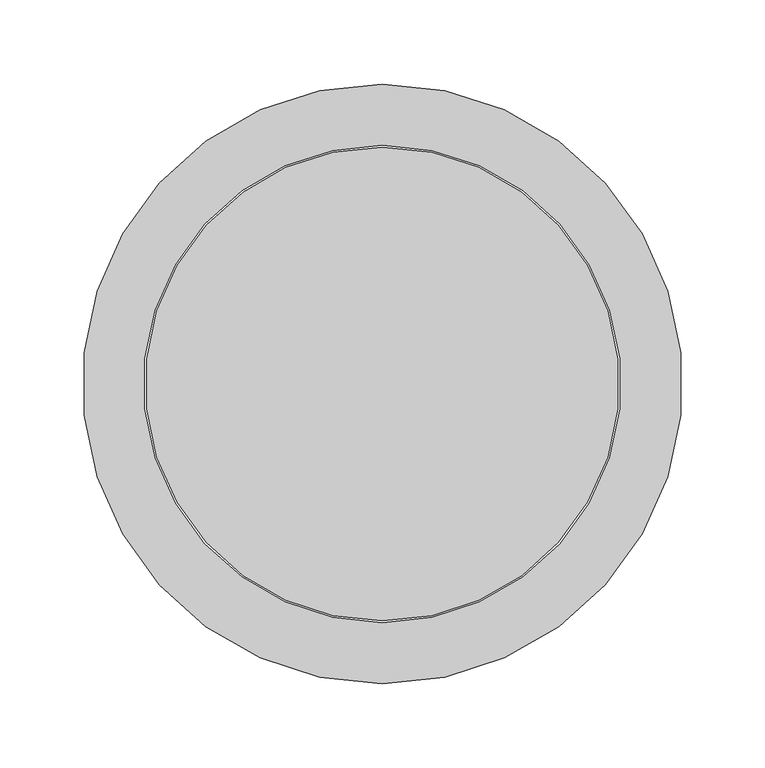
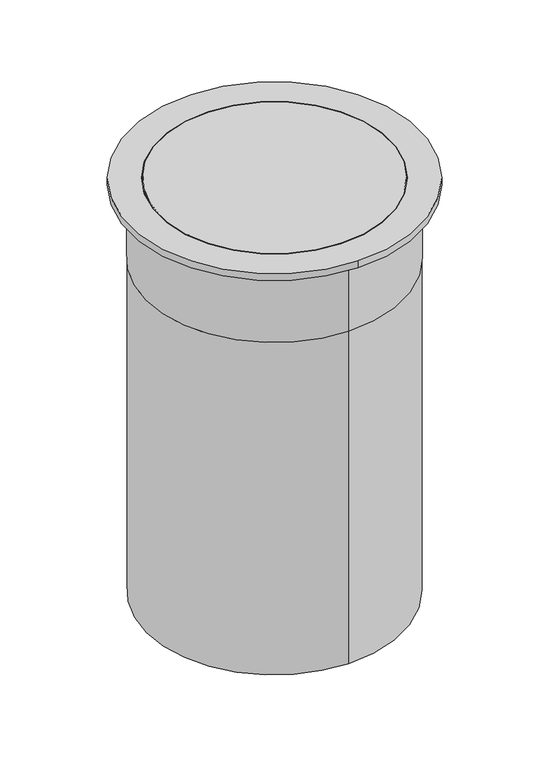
"""IFC4 building model written with IfcOpenShell, lengths in millimetres: valve geometry, Pipelife - Studnia PRO - Teleskop 315 lita : 40.0t/315/400 D400 SN4 lita."""

from ifc_helpers import new_model, si_unit, point, frame, origin, origin_with_axes, origin_2d, place, context, project, spatial, polyline, circle_curve, trimmed, segment, composite_curve, outline, extrude, source, transform, mapped, element, save
from ifc_brep_helpers import plane_surface, cylinder_surface, revolved_surface, advanced_brep


def valve_7e2185a8(model_context):
    return source(origin(), model_context, "Body", "SolidModel", [
        extrude(outline(composite_curve([segment(trimmed(circle_curve(origin_2d(), 141.0), [point((0.0, 141.0))], [point((0.0, -141.0))], False, "CARTESIAN"), True, "CONTINUOUS"), segment(trimmed(circle_curve(origin_2d(), 141.0), [point((0.0, -141.0))], [point((0.0, 141.0))], False, "CARTESIAN"), True, "CONTINUOUS")], self_intersect=False)), frame((0.0, 0.0, 524.0), z_axis=(0.0, 0.0, 1.0), x_axis=(1.0, 0.0, 0.0)), (0.0, 0.0, 1.0), 13.0),
        advanced_brep(
        [(0.0, 158.0, 433.0), (0.0, -158.0, 433.0), (0.0, 150.0, 433.0), (0.0, -150.0, 433.0), (0.0, -158.0, 528.0), (0.0, 158.0, 528.0), (0.0, 150.0, 524.0), (0.0, -150.0, 524.0), (0.0, -142.0, 528.0), (0.0, 142.0, 528.0), (0.0, 142.0, 524.0), (0.0, -142.0, 524.0)],
        [
            (0, 1, circle_curve(frame((0.0, 0.0, 433.0), z_axis=(0.0, 0.0, -1.0), x_axis=(0.0, -1.0, 0.0)), 158.0)),
            (1, 0, circle_curve(frame((0.0, 0.0, 433.0), z_axis=(0.0, 0.0, -1.0), x_axis=(0.0, -1.0, 0.0)), 158.0)),
            (2, 3, circle_curve(frame((0.0, 0.0, 433.0), z_axis=(0.0, 0.0, 1.0), x_axis=(0.0, -1.0, 0.0)), 150.0)),
            (3, 2, circle_curve(frame((0.0, 0.0, 433.0), z_axis=(0.0, 0.0, 1.0), x_axis=(0.0, -1.0, 0.0)), 150.0)),
            (4, 5, circle_curve(frame((0.0, 0.0, 528.0), z_axis=(0.0, 0.0, -1.0), x_axis=(0.0, -1.0, 0.0)), 158.0)),
            (5, 0),
            (1, 4),
            (5, 4, circle_curve(frame((0.0, 0.0, 528.0), z_axis=(0.0, 0.0, -1.0), x_axis=(0.0, -1.0, 0.0)), 158.0)),
            (6, 7, circle_curve(frame((0.0, 0.0, 524.0), z_axis=(0.0, 0.0, 1.0), x_axis=(0.0, -1.0, 0.0)), 150.0)),
            (7, 3),
            (2, 6),
            (7, 6, circle_curve(frame((0.0, 0.0, 524.0), z_axis=(0.0, 0.0, 1.0), x_axis=(0.0, -1.0, 0.0)), 150.0)),
            (8, 9, circle_curve(frame((0.0, 0.0, 528.0), z_axis=(0.0, 0.0, -1.0), x_axis=(0.0, -1.0, 0.0)), 142.0)),
            (9, 8, circle_curve(frame((0.0, 0.0, 528.0), z_axis=(0.0, 0.0, -1.0), x_axis=(0.0, -1.0, 0.0)), 142.0)),
            (10, 11, circle_curve(frame((0.0, 0.0, 524.0), z_axis=(0.0, 0.0, 1.0), x_axis=(0.0, -1.0, 0.0)), 142.0)),
            (11, 10, circle_curve(frame((0.0, 0.0, 524.0), z_axis=(0.0, 0.0, 1.0), x_axis=(0.0, -1.0, 0.0)), 142.0)),
            (10, 9),
            (8, 11),
        ],
        [
            plane_surface(frame((0.0, 0.0, 433.0), z_axis=(0.0, 0.0, -1.0), x_axis=(0.0, -1.0, 0.0))),
            cylinder_surface(frame((0.0, 0.0, 528.0), z_axis=(0.0, 0.0, 1.0), x_axis=(0.0, -1.0, 0.0)), 158.0),
            revolved_surface(polyline([(0.0, -150.0, 524.0), (0.0, -150.0, 433.0)]), (0.0, 0.0, 524.0), (0.0, 0.0, 1.0)),
            plane_surface(frame((0.0, 0.0, 528.0), z_axis=(0.0, 0.0, 1.0), x_axis=(0.0, -1.0, 0.0))),
            plane_surface(frame((0.0, 0.0, 524.0), z_axis=(0.0, 0.0, -1.0), x_axis=(0.0, -1.0, 0.0))),
            revolved_surface(polyline([(0.0, -142.0, 528.0), (0.0, -142.0, 524.0)]), (0.0, 0.0, 537.0), (0.0, 0.0, 1.0)),
        ],
        [
            (0, [[1, 2], [3, 4]]),
            (1, [[5, 6, -2, 7]]),
            (1, [[8, -7, -1, -6]]),
            (2, [[9, 10, -3, 11]]),
            (2, [[12, -11, -4, -10]]),
            (3, [[-5, -8], [13, 14]]),
            (4, [[-12, -9], [15, 16]]),
            (5, [[17, -13, 18, -15]]),
            (5, [[-17, -16, -18, -14]]),
        ],
    ),
        extrude(outline(composite_curve([segment(trimmed(circle_curve(origin_2d(), 157.5), [point((0.0, 157.5))], [point((0.0, -157.5))], False, "CARTESIAN"), True, "CONTINUOUS"), segment(trimmed(circle_curve(origin_2d(), 157.5), [point((0.0, -157.5))], [point((0.0, 157.5))], False, "CARTESIAN"), True, "CONTINUOUS")], self_intersect=False), holes=[composite_curve([segment(trimmed(circle_curve(origin_2d(), 150.0), [point((0.0, 150.0))], [point((0.0, -150.0))], True, "CARTESIAN"), True, "CONTINUOUS"), segment(trimmed(circle_curve(origin_2d(), 150.0), [point((0.0, -150.0))], [point((0.0, 150.0))], True, "CARTESIAN"), True, "CONTINUOUS")], self_intersect=False)]), origin_with_axes(), (0.0, 0.0, 1.0), 433.0),
        extrude(outline(composite_curve([segment(trimmed(circle_curve(origin_2d(), 178.5), [point((0.0, 178.5))], [point((0.0, -178.5))], False, "CARTESIAN"), True, "CONTINUOUS"), segment(trimmed(circle_curve(origin_2d(), 178.5), [point((0.0, -178.5))], [point((0.0, 178.5))], False, "CARTESIAN"), True, "CONTINUOUS")], self_intersect=False), holes=[composite_curve([segment(trimmed(circle_curve(origin_2d(), 142.0), [point((0.0, 142.0))], [point((0.0, -142.0))], True, "CARTESIAN"), True, "CONTINUOUS"), segment(trimmed(circle_curve(origin_2d(), 142.0), [point((0.0, -142.0))], [point((0.0, 142.0))], True, "CARTESIAN"), True, "CONTINUOUS")], self_intersect=False)]), frame((0.0, 0.0, 528.0), z_axis=(0.0, 0.0, 1.0), x_axis=(1.0, 0.0, 0.0)), (0.0, 0.0, 1.0), 9.0),
    ])


if __name__ == "__main__":
    model = new_model("IFC4")
    model_context = context("Model", 3, world=origin())
    ifc_project = project(units=[si_unit("LENGTHUNIT", "METRE", prefix="MILLI")], contexts=[model_context])
    site = spatial("IfcSite", under=ifc_project)
    building = spatial("IfcBuilding", under=site)
    placement = place(None, origin())
    valve_shape = valve_7e2185a8(model_context)
    element("IfcValve", 1, ObjectType="Pipelife - Studnia PRO - Teleskop 315 lita : 40.0t/315/400 D400 SN4 lita", at=placement, inside=building, context=model_context, shape_type="MappedRepresentation", body=[
        mapped(valve_shape, transform((0.0, 0.0, 0.0), x_axis=(1.0, 0.0, 0.0), y_axis=(0.0, 1.0, 0.0), z_axis=(0.0, 0.0, 1.0))),
    ])
    save(model, "model.ifc")
